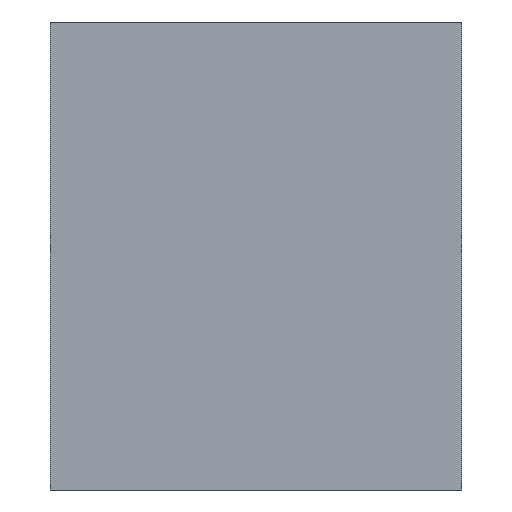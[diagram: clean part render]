
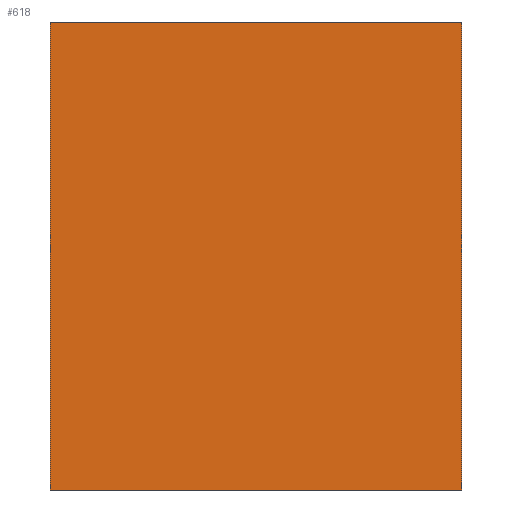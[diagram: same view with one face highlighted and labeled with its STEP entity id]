
A CAD part, left-side view. The second image highlights one B-rep face of the part: STEP entity #618.
In plain terms, the highlighted planar face has unit normal (-1, 0, 0).
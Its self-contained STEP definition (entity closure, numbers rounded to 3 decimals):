
#44 = PLANE('',#45);
#45 = AXIS2_PLACEMENT_3D('',#46,#47,#48);
#46 = CARTESIAN_POINT('',(-58.,-11.,3.));
#47 = DIRECTION('',(-0.,1.,0.));
#48 = DIRECTION('',(0.,0.,-1.));
#72 = PLANE('',#73);
#73 = AXIS2_PLACEMENT_3D('',#74,#75,#76);
#74 = CARTESIAN_POINT('',(-58.,-11.,3.));
#75 = DIRECTION('',(0.,0.,1.));
#76 = DIRECTION('',(1.,0.,0.));
#100 = PLANE('',#101);
#101 = AXIS2_PLACEMENT_3D('',#102,#103,#104);
#102 = CARTESIAN_POINT('',(-58.,11.,3.));
#103 = DIRECTION('',(-0.,1.,0.));
#104 = DIRECTION('',(0.,0.,-1.));
#126 = PLANE('',#127);
#127 = AXIS2_PLACEMENT_3D('',#128,#129,#130);
#128 = CARTESIAN_POINT('',(-58.,-11.,28.));
#129 = DIRECTION('',(0.,0.,1.));
#130 = DIRECTION('',(1.,0.,0.));
#142 = VERTEX_POINT('',#143);
#143 = CARTESIAN_POINT('',(-86.,-11.,3.));
#166 = VERTEX_POINT('',#167);
#167 = CARTESIAN_POINT('',(-86.,-11.,28.));
#188 = EDGE_CURVE('',#142,#166,#189,.T.);
#189 = SURFACE_CURVE('',#190,(#194,#201),.PCURVE_S1.);
#190 = LINE('',#191,#192);
#191 = CARTESIAN_POINT('',(-86.,-11.,3.));
#192 = VECTOR('',#193,1.);
#193 = DIRECTION('',(0.,0.,1.));
#194 = PCURVE('',#44,#195);
#195 = DEFINITIONAL_REPRESENTATION('',(#196),#200);
#196 = LINE('',#197,#198);
#197 = CARTESIAN_POINT('',(-0.,28.));
#198 = VECTOR('',#199,1.);
#199 = DIRECTION('',(-1.,0.));
#200 = ( GEOMETRIC_REPRESENTATION_CONTEXT(2)
PARAMETRIC_REPRESENTATION_CONTEXT() REPRESENTATION_CONTEXT('2D SPACE',''
  ) );
#201 = PCURVE('',#202,#207);
#202 = PLANE('',#203);
#203 = AXIS2_PLACEMENT_3D('',#204,#205,#206);
#204 = CARTESIAN_POINT('',(-86.,-11.,3.));
#205 = DIRECTION('',(-1.,-0.,0.));
#206 = DIRECTION('',(0.,0.,-1.));
#207 = DEFINITIONAL_REPRESENTATION('',(#208),#212);
#208 = LINE('',#209,#210);
#209 = CARTESIAN_POINT('',(-0.,-0.));
#210 = VECTOR('',#211,1.);
#211 = DIRECTION('',(-1.,-0.));
#212 = ( GEOMETRIC_REPRESENTATION_CONTEXT(2)
PARAMETRIC_REPRESENTATION_CONTEXT() REPRESENTATION_CONTEXT('2D SPACE',''
  ) );
#289 = EDGE_CURVE('',#166,#290,#292,.T.);
#290 = VERTEX_POINT('',#291);
#291 = CARTESIAN_POINT('',(-86.,11.,28.));
#292 = SURFACE_CURVE('',#293,(#297,#304),.PCURVE_S1.);
#293 = LINE('',#294,#295);
#294 = CARTESIAN_POINT('',(-86.,-11.,28.));
#295 = VECTOR('',#296,1.);
#296 = DIRECTION('',(-0.,1.,0.));
#297 = PCURVE('',#126,#298);
#298 = DEFINITIONAL_REPRESENTATION('',(#299),#303);
#299 = LINE('',#300,#301);
#300 = CARTESIAN_POINT('',(-28.,0.));
#301 = VECTOR('',#302,1.);
#302 = DIRECTION('',(-0.,1.));
#303 = ( GEOMETRIC_REPRESENTATION_CONTEXT(2)
PARAMETRIC_REPRESENTATION_CONTEXT() REPRESENTATION_CONTEXT('2D SPACE',''
  ) );
#304 = PCURVE('',#202,#305);
#305 = DEFINITIONAL_REPRESENTATION('',(#306),#310);
#306 = LINE('',#307,#308);
#307 = CARTESIAN_POINT('',(-25.,-0.));
#308 = VECTOR('',#309,1.);
#309 = DIRECTION('',(-0.,-1.));
#310 = ( GEOMETRIC_REPRESENTATION_CONTEXT(2)
PARAMETRIC_REPRESENTATION_CONTEXT() REPRESENTATION_CONTEXT('2D SPACE',''
  ) );
#407 = VERTEX_POINT('',#408);
#408 = CARTESIAN_POINT('',(-86.,11.,3.));
#431 = EDGE_CURVE('',#407,#290,#432,.T.);
#432 = SURFACE_CURVE('',#433,(#437,#444),.PCURVE_S1.);
#433 = LINE('',#434,#435);
#434 = CARTESIAN_POINT('',(-86.,11.,3.));
#435 = VECTOR('',#436,1.);
#436 = DIRECTION('',(0.,0.,1.));
#437 = PCURVE('',#100,#438);
#438 = DEFINITIONAL_REPRESENTATION('',(#439),#443);
#439 = LINE('',#440,#441);
#440 = CARTESIAN_POINT('',(-0.,28.));
#441 = VECTOR('',#442,1.);
#442 = DIRECTION('',(-1.,0.));
#443 = ( GEOMETRIC_REPRESENTATION_CONTEXT(2)
PARAMETRIC_REPRESENTATION_CONTEXT() REPRESENTATION_CONTEXT('2D SPACE',''
  ) );
#444 = PCURVE('',#202,#445);
#445 = DEFINITIONAL_REPRESENTATION('',(#446),#450);
#446 = LINE('',#447,#448);
#447 = CARTESIAN_POINT('',(-0.,-22.));
#448 = VECTOR('',#449,1.);
#449 = DIRECTION('',(-1.,-0.));
#450 = ( GEOMETRIC_REPRESENTATION_CONTEXT(2)
PARAMETRIC_REPRESENTATION_CONTEXT() REPRESENTATION_CONTEXT('2D SPACE',''
  ) );
#527 = EDGE_CURVE('',#142,#407,#528,.T.);
#528 = SURFACE_CURVE('',#529,(#533,#540),.PCURVE_S1.);
#529 = LINE('',#530,#531);
#530 = CARTESIAN_POINT('',(-86.,-11.,3.));
#531 = VECTOR('',#532,1.);
#532 = DIRECTION('',(-0.,1.,0.));
#533 = PCURVE('',#72,#534);
#534 = DEFINITIONAL_REPRESENTATION('',(#535),#539);
#535 = LINE('',#536,#537);
#536 = CARTESIAN_POINT('',(-28.,0.));
#537 = VECTOR('',#538,1.);
#538 = DIRECTION('',(-0.,1.));
#539 = ( GEOMETRIC_REPRESENTATION_CONTEXT(2)
PARAMETRIC_REPRESENTATION_CONTEXT() REPRESENTATION_CONTEXT('2D SPACE',''
  ) );
#540 = PCURVE('',#202,#541);
#541 = DEFINITIONAL_REPRESENTATION('',(#542),#546);
#542 = LINE('',#543,#544);
#543 = CARTESIAN_POINT('',(-0.,-0.));
#544 = VECTOR('',#545,1.);
#545 = DIRECTION('',(-0.,-1.));
#546 = ( GEOMETRIC_REPRESENTATION_CONTEXT(2)
PARAMETRIC_REPRESENTATION_CONTEXT() REPRESENTATION_CONTEXT('2D SPACE',''
  ) );
#618 = ADVANCED_FACE('',(#619),#202,.T.);
#619 = FACE_BOUND('',#620,.F.);
#620 = EDGE_LOOP('',(#621,#622,#623,#624));
#621 = ORIENTED_EDGE('',*,*,#188,.F.);
#622 = ORIENTED_EDGE('',*,*,#527,.T.);
#623 = ORIENTED_EDGE('',*,*,#431,.T.);
#624 = ORIENTED_EDGE('',*,*,#289,.F.);
